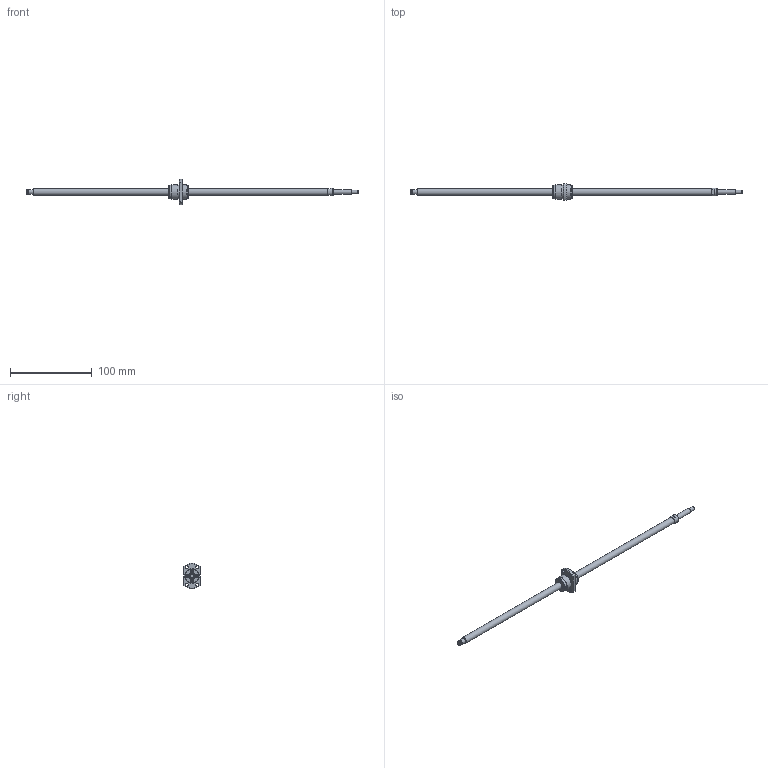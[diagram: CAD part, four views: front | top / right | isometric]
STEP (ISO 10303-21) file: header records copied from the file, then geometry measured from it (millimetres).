
FILE_DESCRIPTION(/* description */ ('STEP AP203'),/* implementation_level */ '2;1');
FILE_NAME(/* name */ 'BNK0810-3GT+405LC5Y(189)',/* time_stamp */ '2024-07-09T08:56:52+02:00',/* author */ ('License CC BY-ND 4.0'),/* organization */ ('CADENAS'),/* preprocessor_version */ 'ST-DEVELOPER v19.3',/* originating_system */ 'PARTsolutions',/* authorisation */ ' ');
FILE_SCHEMA (('CONFIG_CONTROL_DESIGN'));
Length unit declared in the file: millimetre
Products named in the file (3): BNK0810-3GT+405LC5Y(189); BNK 0810-3GT+405LC5Y Shaft; BNK 0810-3GT+405LC5Y Nut
Assembly tree (2 placements, depth 2):
  BNK0810-3GT+405LC5Y(189)
    BNK 0810-3GT+405LC5Y Shaft
    BNK 0810-3GT+405LC5Y Nut
Bounding box: 405 x 20 x 30.91 mm (x, y, z)
Volume: 25244.2 mm3; surface area: 13419.7 mm2
Topology: 2 solids, 2 shells, 112 faces, 256 edges, 166 vertices
Faces by surface type: plane 66, cylinder 27, cone 13, torus 6
Full cylindrical faces by diameter (mm): 3 x4, 3.4 x4, 4.5 x1, 5.7 x1, 6 x3, 8 x2, 9.5 x1, 16.2 x1, 17 x2, 18 x2
Entity records: 3085 total; most frequent: CARTESIAN_POINT 549, DIRECTION 520, ORIENTED_EDGE 444, EDGE_CURVE 222, AXIS2_PLACEMENT_3D 199, EDGE_LOOP 172, FACE_BOUND 172, VERTEX_POINT 164
